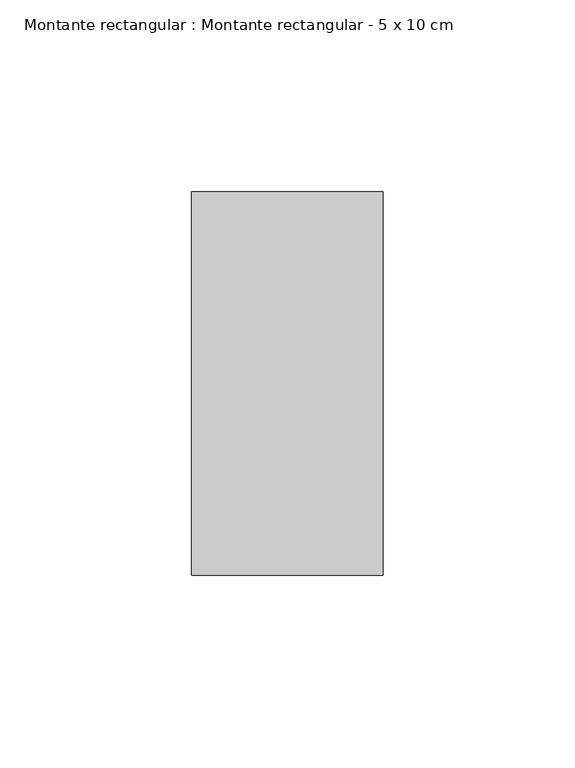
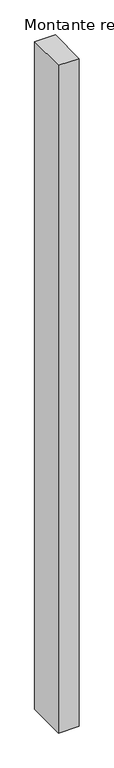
"""IFC4 building model written with IfcOpenShell, lengths in millimetres: member geometry, Montante rectangular : Montante rectangular - 5 x 10 cm."""

import ifcopenshell
import ifcopenshell.guid

model = None  # the IFC model being written
_history = None  # IfcOwnerHistory: only IFC2X3 demands one
_inside = {}  # id of a spatial element -> (the spatial element, [elements in it])
_under = {}  # id of a project, library or spatial element -> (it, [spatial elements below it])
_declared = {}  # id of a project -> (the project, [libraries it declares])
_typed = {}  # id of a type object -> (the type object, [elements of that type])
_made_of = {}  # id of a material, layer set ... -> (it, [elements and type objects made of it])


def new_model(schema):
    """Start an empty IFC model of exactly this schema.

    Asked for "IFC4X3", IfcOpenShell would pick the latest addendum, in which some entities
    have other attributes; the version numbers below select the first issue.
    IFC2X3 requires an IfcOwnerHistory on every rooted entity: one is made here for all.
    """
    global model, _history
    if schema == "IFC4X3":
        model = ifcopenshell.file(schema_version=(4, 3, 0, 0))
    else:
        model = ifcopenshell.file(schema=schema)
    _inside.clear()
    _under.clear()
    _declared.clear()
    _typed.clear()
    _made_of.clear()
    _history = None
    if model.schema == "IFC2X3":
        org = make("IfcOrganization", Name="unknown")
        user = make(
            "IfcPersonAndOrganization",
            ThePerson=make("IfcPerson", FamilyName="unknown"),
            TheOrganization=org,
        )
        app = make(
            "IfcApplication",
            ApplicationDeveloper=org,
            Version="unknown",
            ApplicationFullName="unknown",
            ApplicationIdentifier="unknown",
        )
        _history = make(
            "IfcOwnerHistory",
            OwningUser=user,
            OwningApplication=app,
            ChangeAction="ADDED",
            CreationDate=0,
        )
    return model


def make(cls, **values):
    """One entity of the class cls with the attributes given. An attribute that is None is left unset."""
    return model.create_entity(
        cls, **{name: value for name, value in values.items() if value is not None}
    )


def rooted(cls, **values):
    """An entity with a GlobalId (a new one), such as an element, a storey or a relation."""
    return make(cls, GlobalId=ifcopenshell.guid.new(), OwnerHistory=_history, **values)


def si_unit(unit_type, name, prefix=None):
    """IfcSIUnit, for example si_unit("LENGTHUNIT", "METRE", prefix="MILLI")."""
    return make("IfcSIUnit", UnitType=unit_type, Prefix=prefix, Name=name)


def assignment(units):
    """IfcUnitAssignment: the units of a project."""
    return None if units is None else make("IfcUnitAssignment", Units=units)


def point(xyz):
    """IfcCartesianPoint."""
    return None if xyz is None else make("IfcCartesianPoint", Coordinates=xyz)


def direction(xyz):
    """IfcDirection."""
    return None if xyz is None else make("IfcDirection", DirectionRatios=xyz)


def frame(location, z_axis=None, x_axis=None):
    """IfcAxis2Placement3D, a coordinate frame: its origin and axes. An axis left out is left unset."""
    return make(
        "IfcAxis2Placement3D",
        Location=point(location),
        Axis=direction(z_axis),
        RefDirection=direction(x_axis),
    )


def origin():
    """The frame at (0, 0, 0) with its axes left unset."""
    return frame((0.0, 0.0, 0.0))


def place(relative_to, where):
    """IfcLocalPlacement: puts the frame where relative to a parent placement (None: the world)."""
    return make(
        "IfcLocalPlacement", PlacementRelTo=relative_to, RelativePlacement=where
    )


def context(
    kind, dimensions, precision=None, world=None, true_north=None, identifier=None
):
    """IfcGeometricRepresentationContext, for example the 3D "Model" context."""
    return make(
        "IfcGeometricRepresentationContext",
        ContextIdentifier=identifier,
        ContextType=kind,
        CoordinateSpaceDimension=dimensions,
        Precision=precision,
        WorldCoordinateSystem=world,
        TrueNorth=true_north,
    )


def project(units=None, contexts=None):
    """IfcProject with its units and contexts."""
    return rooted(
        "IfcProject",
        Name="project",
        RepresentationContexts=contexts,
        UnitsInContext=assignment(units),
    )


def spatial(cls, under=None, at=None, **own):
    """A site, building, storey or space (cls), placed at a placement, below another one or the project."""
    s = rooted(cls, ObjectPlacement=at, **own)
    if under is not None:
        _under.setdefault(under.id(), (under, []))[1].append(s)
    return s


def polyline(points):
    """IfcPolyline through the points."""
    return make("IfcPolyline", Points=[point(p) for p in points])


def outline(outer, holes=None, kind="AREA"):
    """IfcArbitraryClosedProfileDef: a profile drawn as a closed curve; with holes, ...WithVoids."""
    if holes is None:
        return make("IfcArbitraryClosedProfileDef", ProfileType=kind, OuterCurve=outer)
    return make(
        "IfcArbitraryProfileDefWithVoids",
        ProfileType=kind,
        OuterCurve=outer,
        InnerCurves=holes,
    )


def extrude(swept, where, along, depth):
    """IfcExtrudedAreaSolid: the profile swept, set in the frame where, extruded along a direction by depth."""
    return make(
        "IfcExtrudedAreaSolid",
        SweptArea=swept,
        Position=where,
        ExtrudedDirection=direction(along),
        Depth=depth,
    )


def shape(context_of_items, identifier, shape_type, items):
    """IfcShapeRepresentation: the items that make up one representation, for example the "Body"."""
    return make(
        "IfcShapeRepresentation",
        ContextOfItems=context_of_items,
        RepresentationIdentifier=identifier,
        RepresentationType=shape_type,
        Items=items,
    )


def source(mapping_origin, context_of_items, identifier, shape_type, items):
    """IfcRepresentationMap: a shape defined once, which mapped items show again and again."""
    return make(
        "IfcRepresentationMap",
        MappingOrigin=mapping_origin,
        MappedRepresentation=shape(context_of_items, identifier, shape_type, items),
    )


def transform(
    local_origin,
    x_axis=None,
    y_axis=None,
    z_axis=None,
    scale=None,
    scale2=None,
    scale3=None,
    uniform=True,
):
    """IfcCartesianTransformationOperator3D, or its non-uniform kind. x_axis, y_axis, z_axis: its Axis1, 2, 3."""
    if uniform:
        return make(
            "IfcCartesianTransformationOperator3D",
            Axis1=direction(x_axis),
            Axis2=direction(y_axis),
            LocalOrigin=point(local_origin),
            Scale=scale,
            Axis3=direction(z_axis),
        )
    return make(
        "IfcCartesianTransformationOperator3DnonUniform",
        Axis1=direction(x_axis),
        Axis2=direction(y_axis),
        LocalOrigin=point(local_origin),
        Scale=scale,
        Axis3=direction(z_axis),
        Scale2=scale2,
        Scale3=scale3,
    )


def mapped(mapping_source, mapping_target):
    """IfcMappedItem: shows the shape of a source again, moved by a transform."""
    return make(
        "IfcMappedItem", MappingSource=mapping_source, MappingTarget=mapping_target
    )


def made_of(thing, what):
    """Note that an element or type object is made of a material, layer set ...; save() writes the relation."""
    if what is not None:
        _made_of.setdefault(what.id(), (what, []))[1].append(thing)
    return thing


def element(
    cls,
    number,
    at=None,
    inside=None,
    cuts=None,
    type_object=None,
    material=None,
    context=None,
    identifier="Body",
    shape_type=None,
    held_by="IfcProductDefinitionShape",
    body=None,
    shapes=None,
    **own,
):
    """One element of the class cls, such as IfcWall. Its Tag is "e" and its number.

    at: its placement. inside: the storey or other place that contains it. cuts: it is an
    opening in that element (IfcRelVoidsElement). A single representation is given by context,
    identifier, shape_type and body (its items); several are given by shapes. held_by: the class
    of the entity that holds the representations. save() writes the other relations.
    """
    e = rooted(cls, Tag="e%d" % number, ObjectPlacement=at, **own)
    if body is not None:
        shapes = [shape(context, identifier, shape_type, body)]
    if shapes is not None:
        e.Representation = make(held_by, Representations=shapes)
    if inside is not None:
        _inside.setdefault(inside.id(), (inside, []))[1].append(e)
    if cuts is not None:
        rooted(
            "IfcRelVoidsElement", RelatingBuildingElement=cuts, RelatedOpeningElement=e
        )
    if type_object is not None:
        _typed.setdefault(type_object.id(), (type_object, []))[1].append(e)
    return made_of(e, material)


def aggregate(whole, parts):
    """IfcRelAggregates: a whole, such as a stair, and the parts it consists of."""
    return rooted("IfcRelAggregates", RelatingObject=whole, RelatedObjects=parts)


def save(model, path):
    """Write the relations noted so far, then the file.

    IfcRelAggregates (storeys below a building ...), IfcRelContainedInSpatialStructure (elements
    in a storey), IfcRelDefinesByType, IfcRelAssociatesMaterial and IfcRelDeclares: one each for
    every whole, place, type object, material and project.
    """
    for whole, parts in _under.values():
        aggregate(whole, parts)
    for where, things in _inside.values():
        rooted(
            "IfcRelContainedInSpatialStructure",
            RelatedElements=things,
            RelatingStructure=where,
        )
    for kind, things in _typed.values():
        rooted("IfcRelDefinesByType", RelatedObjects=things, RelatingType=kind)
    for what, things in _made_of.values():
        rooted("IfcRelAssociatesMaterial", RelatedObjects=things, RelatingMaterial=what)
    for by, libraries in _declared.values():
        rooted("IfcRelDeclares", RelatingContext=by, RelatedDefinitions=libraries)
    model.write(path)


def montante_rectangular_montante_rectangular_5_x_10_cm_75dd5ca4(model_context):
    return source(origin(), model_context, "Body", "SweptSolid", [
        extrude(outline(polyline([(25.0, 50.0), (25.0, -50.0), (-25.0, -50.0), (-25.0, 50.0), (25.0, 50.0)])), frame((0.0, 0.0, -1712.618811), z_axis=(0.0, 0.0, 1.0), x_axis=(1.0, 0.0, 0.0)), (0.0, 0.0, 1.0), 1712.618811),
    ])


if __name__ == "__main__":
    model = new_model("IFC4")
    model_context = context("Model", 3, world=origin())
    ifc_project = project(units=[si_unit("LENGTHUNIT", "METRE", prefix="MILLI")], contexts=[model_context])
    site = spatial("IfcSite", under=ifc_project)
    building = spatial("IfcBuilding", under=site)
    placement = place(None, origin())
    montante_rectangular_montante_rectangular_5_x_10_cm_shape = montante_rectangular_montante_rectangular_5_x_10_cm_75dd5ca4(model_context)
    element("IfcMember", 1, ObjectType="Montante rectangular : Montante rectangular - 5 x 10 cm", at=placement, inside=building, context=model_context, shape_type="MappedRepresentation", body=[
        mapped(montante_rectangular_montante_rectangular_5_x_10_cm_shape, transform((0.0, 0.0, 0.0), x_axis=(1.0, 0.0, 0.0), y_axis=(0.0, 1.0, 0.0), z_axis=(0.0, 0.0, 1.0))),
    ])
    save(model, "model.ifc")
